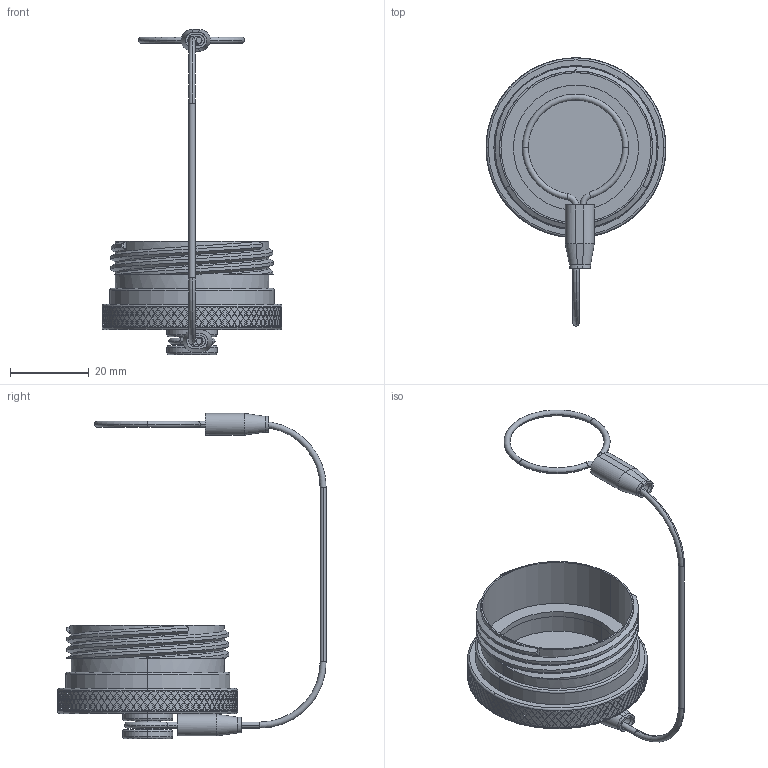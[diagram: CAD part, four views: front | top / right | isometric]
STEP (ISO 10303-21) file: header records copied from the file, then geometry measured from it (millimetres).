
FILE_DESCRIPTION (( 'STEP AP214' ), '1' );
FILE_NAME ('Q38DC-PGX-25-R2.STEP', '2026-04-22T18:29:05', ( '' ), ( '' ), 'SwSTEP 2.0', 'SolidWorks 2024', '' );
FILE_SCHEMA (( 'AUTOMOTIVE_DESIGN' ));
Length unit declared in the file: inch
Products named in the file (7): Q38-XX28-X_Q38-2528; Q38-XX29-P_25P; SW-003; Lanyard Assembly Q38_PLUG; Q38DC-PGX-25-R2; HEAT SHRINK_HS-250X625; LN-06-07-XX-Q38eb_Plug
Assembly tree (8 placements, depth 3):
  Q38DC-PGX-25-R2
    Q38-XX28-X_Q38-2528
    Lanyard Assembly Q38_PLUG
      LN-06-07-XX-Q38eb_Plug
      SW-003  x2
      HEAT SHRINK_HS-250X625  x2
    Q38-XX29-P_25P
Bounding box: 45.54 x 67.98 x 82.38 mm (x, y, z)
Volume: 12631.8 mm3; surface area: 13652 mm2
Topology: 7 solids, 7 shells, 2226 faces, 5345 edges, 3541 vertices
Faces by surface type: plane 1692, cylinder 483, torus 34, bspline 17
Entity records: 64722 total; most frequent: CARTESIAN_POINT 21731, ORIENTED_EDGE 10542, DIRECTION 7137, EDGE_CURVE 5271, VERTEX_POINT 3497, AXIS2_PLACEMENT_3D 2692, EDGE_LOOP 2606, ADVANCED_FACE 2192
